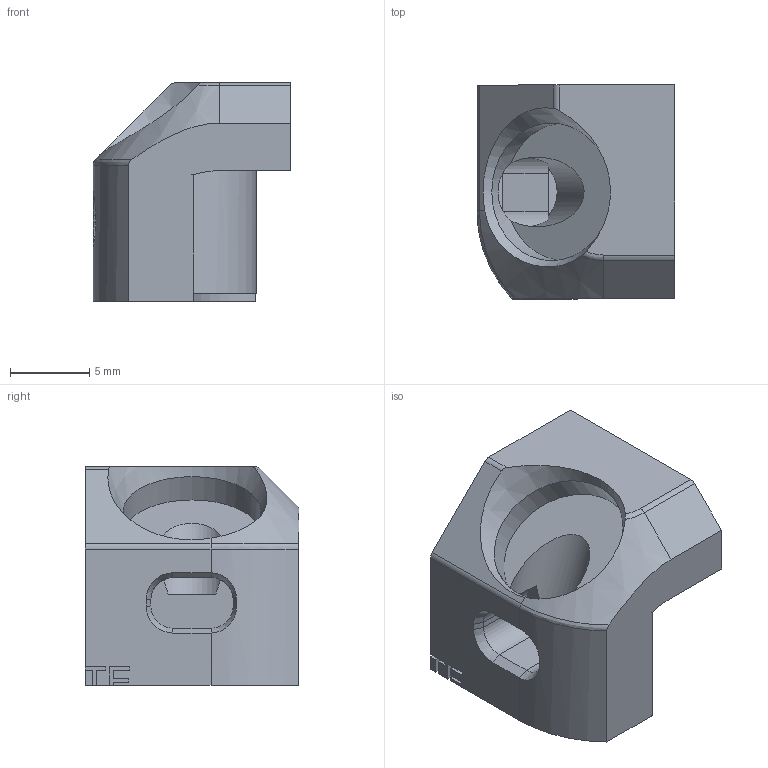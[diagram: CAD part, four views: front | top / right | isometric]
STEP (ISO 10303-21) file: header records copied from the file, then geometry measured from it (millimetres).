
FILE_DESCRIPTION(('Open CASCADE Model'),'2;1');
FILE_NAME('Open CASCADE Shape Model','2026-10-06T21:55:45',('Author'),( 'Open CASCADE'),'Open CASCADE STEP processor 7.9','Open CASCADE 7.9' ,'Unknown');
FILE_SCHEMA(('AUTOMOTIVE_DESIGN { 1 0 10303 214 1 1 1 1 }'));
Length unit declared in the file: millimetre
Products named in the file (1): Open CASCADE STEP translator 7.9 1
Bounding box: 12.5 x 13.5 x 13.8 mm (x, y, z)
Volume: 1148.2 mm3; surface area: 1116.4 mm2
Topology: 1 solids, 1 shells, 66 faces, 184 edges, 118 vertices
Faces by surface type: plane 44, cylinder 13, cone 7, torus 1, bspline 1
Full cylindrical faces by diameter (mm): 4.4 x1, 8.7 x1
Entity records: 5208 total; most frequent: CARTESIAN_POINT 1768, DIRECTION 571, ORIENTED_EDGE 368, PCURVE 368, DEFINITIONAL_REPRESENTATION 368, LINE 327, VECTOR 327, EDGE_CURVE 184
